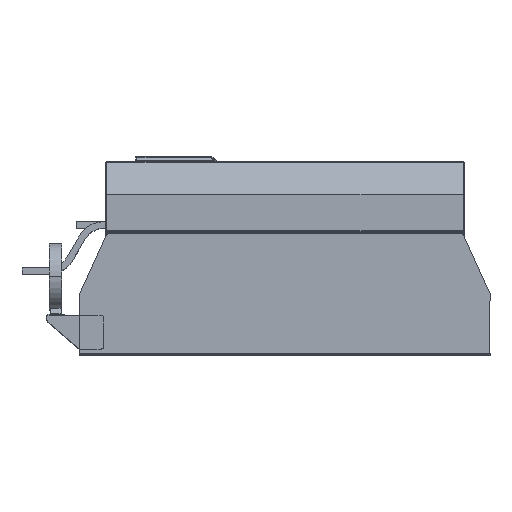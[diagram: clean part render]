
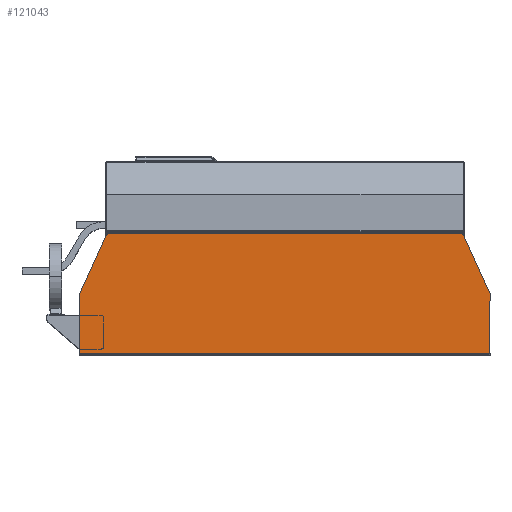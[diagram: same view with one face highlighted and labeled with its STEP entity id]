
A CAD part, top view. The second image highlights one B-rep face of the part: STEP entity #121043.
In plain terms, the highlighted planar face has unit normal (0, 0, 1).
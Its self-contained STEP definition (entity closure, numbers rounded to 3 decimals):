
#3151 = CARTESIAN_POINT ( 'NONE',  ( -375., 2.8, 286.9 ) ) ;
#3156 = DIRECTION ( 'NONE',  ( -1., 0., 0. ) ) ;
#5325 = LINE ( 'NONE', #201919, #5328 ) ;
#5328 = VECTOR ( 'NONE', #201928, 1000. ) ;
#11260 = DIRECTION ( 'NONE',  ( -0.412, -0.911, 0. ) ) ;
#11261 = CARTESIAN_POINT ( 'NONE',  ( -325., 223., 286.9 ) ) ;
#35620 = CARTESIAN_POINT ( 'NONE',  ( -325., 222.2, 286.9 ) ) ;
#35672 = DIRECTION ( 'NONE',  ( -1., 0., 0. ) ) ;
#38701 = DIRECTION ( 'NONE',  ( 0., -1., 0. ) ) ;
#38708 = CARTESIAN_POINT ( 'NONE',  ( -325., 0., 286.9 ) ) ;
#45658 = DIRECTION ( 'NONE',  ( 0., 1., 0. ) ) ;
#45664 = CARTESIAN_POINT ( 'NONE',  ( 375., 0., 286.9 ) ) ;
#46066 = DIRECTION ( 'NONE',  ( 0., -1., 0. ) ) ;
#46070 = CARTESIAN_POINT ( 'NONE',  ( -375., 0., 286.9 ) ) ;
#48352 = ORIENTED_EDGE ( 'NONE', *, *, #128071, .T. ) ;
#48674 = ORIENTED_EDGE ( 'NONE', *, *, #127683, .T. ) ;
#49022 = ORIENTED_EDGE ( 'NONE', *, *, #159182, .F. ) ;
#49085 = ORIENTED_EDGE ( 'NONE', *, *, #166496, .T. ) ;
#49169 = ORIENTED_EDGE ( 'NONE', *, *, #131311, .T. ) ;
#49385 = ORIENTED_EDGE ( 'NONE', *, *, #130048, .T. ) ;
#49479 = ORIENTED_EDGE ( 'NONE', *, *, #167597, .T. ) ;
#49648 = ORIENTED_EDGE ( 'NONE', *, *, #167945, .T. ) ;
#49693 = ORIENTED_EDGE ( 'NONE', *, *, #163934, .T. ) ;
#49711 = ORIENTED_EDGE ( 'NONE', *, *, #128468, .T. ) ;
#53903 = LINE ( 'NONE', #38708, #53908 ) ;
#53908 = VECTOR ( 'NONE', #38701, 1000. ) ;
#57898 = FACE_OUTER_BOUND ( 'NONE', #178002, .T. ) ;
#65023 = CARTESIAN_POINT ( 'NONE',  ( -325., 221.2, 286.9 ) ) ;
#65024 = DIRECTION ( 'NONE',  ( -1., 0., 0. ) ) ;
#67468 = AXIS2_PLACEMENT_3D ( 'NONE', #99723, #99726, #99728 ) ;
#99699 = PLANE ( 'NONE',  #67468 ) ;
#99723 = CARTESIAN_POINT ( 'NONE',  ( -325., 0., 286.9 ) ) ;
#99726 = DIRECTION ( 'NONE',  ( 0., 0., 1. ) ) ;
#99728 = DIRECTION ( 'NONE',  ( 0., -1., 0. ) ) ;
#106046 = LINE ( 'NONE', #185253, #106057 ) ;
#106057 = VECTOR ( 'NONE', #185273, 1000. ) ;
#107196 = LINE ( 'NONE', #11261, #107202 ) ;
#107202 = VECTOR ( 'NONE', #11260, 1000. ) ;
#118686 = LINE ( 'NONE', #35620, #118702 ) ;
#118702 = VECTOR ( 'NONE', #35672, 1000. ) ;
#119462 = LINE ( 'NONE', #65023, #119469 ) ;
#119469 = VECTOR ( 'NONE', #65024, 1000. ) ;
#121043 = ADVANCED_FACE ( 'NONE', ( #57898 ), #99699, .T. ) ;
#127683 = EDGE_CURVE ( 'NONE', #170953, #192847, #164839, .T. ) ;
#128071 = EDGE_CURVE ( 'NONE', #192847, #191191, #118686, .T. ) ;
#128468 = EDGE_CURVE ( 'NONE', #192980, #170953, #119462, .T. ) ;
#130048 = EDGE_CURVE ( 'NONE', #191191, #192769, #53903, .T. ) ;
#131311 = EDGE_CURVE ( 'NONE', #171133, #192980, #5325, .T. ) ;
#149551 = CARTESIAN_POINT ( 'NONE',  ( 325., 0., 286.9 ) ) ;
#149585 = DIRECTION ( 'NONE',  ( 0., 1., 0. ) ) ;
#153175 = LINE ( 'NONE', #45664, #153183 ) ;
#153183 = VECTOR ( 'NONE', #45658, 1000. ) ;
#153379 = LINE ( 'NONE', #46070, #153382 ) ;
#153382 = VECTOR ( 'NONE', #46066, 1000. ) ;
#154793 = CARTESIAN_POINT ( 'NONE',  ( -325., 222.2, 286.9 ) ) ;
#154952 = CARTESIAN_POINT ( 'NONE',  ( 375., 2.8, 286.9 ) ) ;
#155404 = CARTESIAN_POINT ( 'NONE',  ( -325., 221.2, 286.9 ) ) ;
#155439 = CARTESIAN_POINT ( 'NONE',  ( 325., 222.2, 286.9 ) ) ;
#155494 = CARTESIAN_POINT ( 'NONE',  ( 325.814, 221.2, 286.9 ) ) ;
#159182 = EDGE_CURVE ( 'NONE', #191671, #169526, #173237, .T. ) ;
#163934 = EDGE_CURVE ( 'NONE', #192769, #170214, #106046, .T. ) ;
#164839 = LINE ( 'NONE', #149551, #164879 ) ;
#164879 = VECTOR ( 'NONE', #149585, 1000. ) ;
#166496 = EDGE_CURVE ( 'NONE', #170214, #170515, #107196, .T. ) ;
#167597 = EDGE_CURVE ( 'NONE', #191671, #171133, #153175, .T. ) ;
#167945 = EDGE_CURVE ( 'NONE', #170515, #169526, #153379, .T. ) ;
#169371 = CARTESIAN_POINT ( 'NONE',  ( -375., 2.8, 286.9 ) ) ;
#169526 = VERTEX_POINT ( 'NONE', #169371 ) ;
#170214 = VERTEX_POINT ( 'NONE', #173209 ) ;
#170515 = VERTEX_POINT ( 'NONE', #173459 ) ;
#170953 = VERTEX_POINT ( 'NONE', #173989 ) ;
#171133 = VERTEX_POINT ( 'NONE', #174194 ) ;
#173209 = CARTESIAN_POINT ( 'NONE',  ( -325.814, 221.2, 286.9 ) ) ;
#173237 = LINE ( 'NONE', #3151, #173243 ) ;
#173243 = VECTOR ( 'NONE', #3156, 1000. ) ;
#173459 = CARTESIAN_POINT ( 'NONE',  ( -375., 112.5, 286.9 ) ) ;
#173989 = CARTESIAN_POINT ( 'NONE',  ( 325., 221.2, 286.9 ) ) ;
#174194 = CARTESIAN_POINT ( 'NONE',  ( 375., 112.5, 286.9 ) ) ;
#178002 = EDGE_LOOP ( 'NONE', ( #48674, #48352, #49385, #49693, #49085, #49648, #49022, #49479, #49169, #49711 ) ) ;
#185253 = CARTESIAN_POINT ( 'NONE',  ( -325., 221.2, 286.9 ) ) ;
#185273 = DIRECTION ( 'NONE',  ( -1., 0., 0. ) ) ;
#191191 = VERTEX_POINT ( 'NONE', #154793 ) ;
#191671 = VERTEX_POINT ( 'NONE', #154952 ) ;
#192769 = VERTEX_POINT ( 'NONE', #155404 ) ;
#192847 = VERTEX_POINT ( 'NONE', #155439 ) ;
#192980 = VERTEX_POINT ( 'NONE', #155494 ) ;
#201919 = CARTESIAN_POINT ( 'NONE',  ( 375., 112.5, 286.9 ) ) ;
#201928 = DIRECTION ( 'NONE',  ( -0.412, 0.911, 0. ) ) ;
